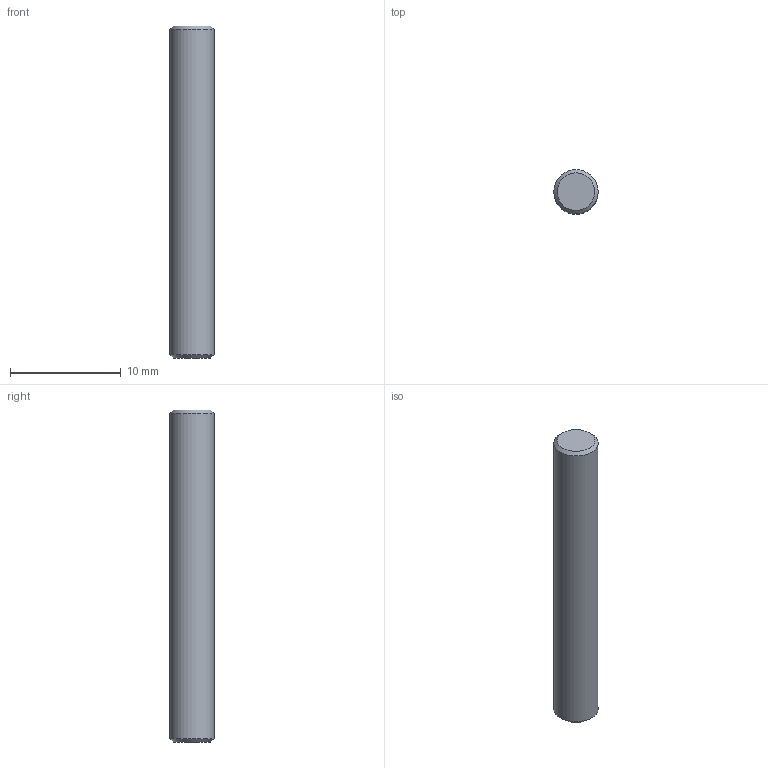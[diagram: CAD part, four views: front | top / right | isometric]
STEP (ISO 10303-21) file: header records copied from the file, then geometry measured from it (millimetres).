
FILE_DESCRIPTION(/* description */ (''),/* implementation_level */ '2;1');
FILE_NAME(/* name */ '2020TOMO-CRIMP.10.stp',/* time_stamp */ '2021-01-20T14:51:42+01:00',/* author */ (''),/* organization */ (''),/* preprocessor_version */ 'ST-DEVELOPER v16.7',/* originating_system */ 'SIEMENS PLM Software NX 1892',/* authorisation */ '');
FILE_SCHEMA (('AUTOMOTIVE_DESIGN { 1 0 10303 214 3 1 1 1 }'));
Length unit declared in the file: millimetre
Products named in the file (1): turc131041948itb
Bounding box: 4 x 4 x 30 mm (x, y, z)
Volume: 375.9 mm3; surface area: 397.5 mm2
Topology: 1 solids, 1 shells, 5 faces, 8 edges, 5 vertices
Faces by surface type: plane 2, cone 2, cylinder 1
Full cylindrical faces by diameter (mm): 4 x1
Entity records: 126 total; most frequent: DIRECTION 20, CARTESIAN_POINT 14, AXIS2_PLACEMENT_3D 10, EDGE_LOOP 8, ORIENTED_EDGE 8, FACE_BOUND 6, ADVANCED_FACE 5, VERTEX_POINT 4
